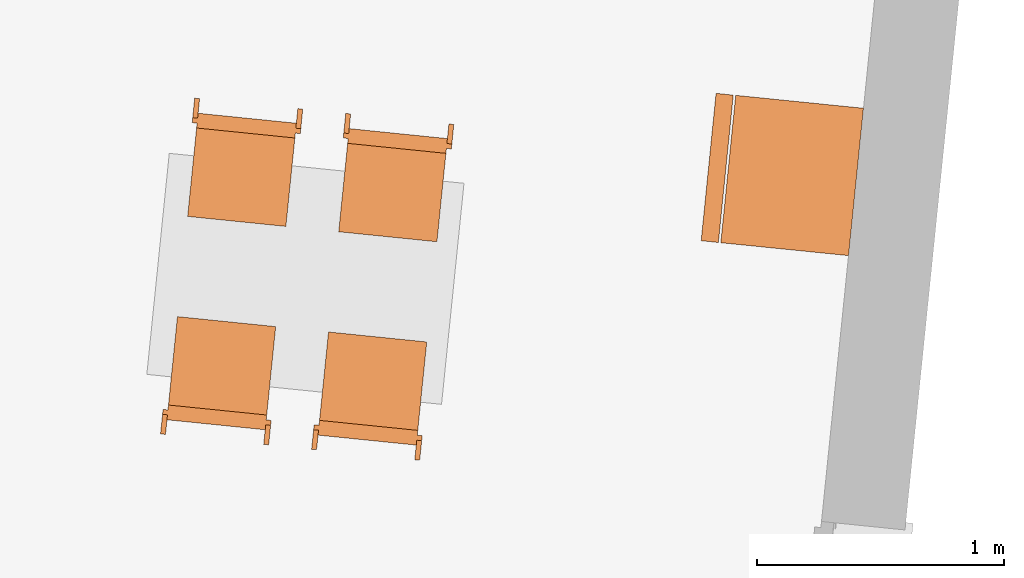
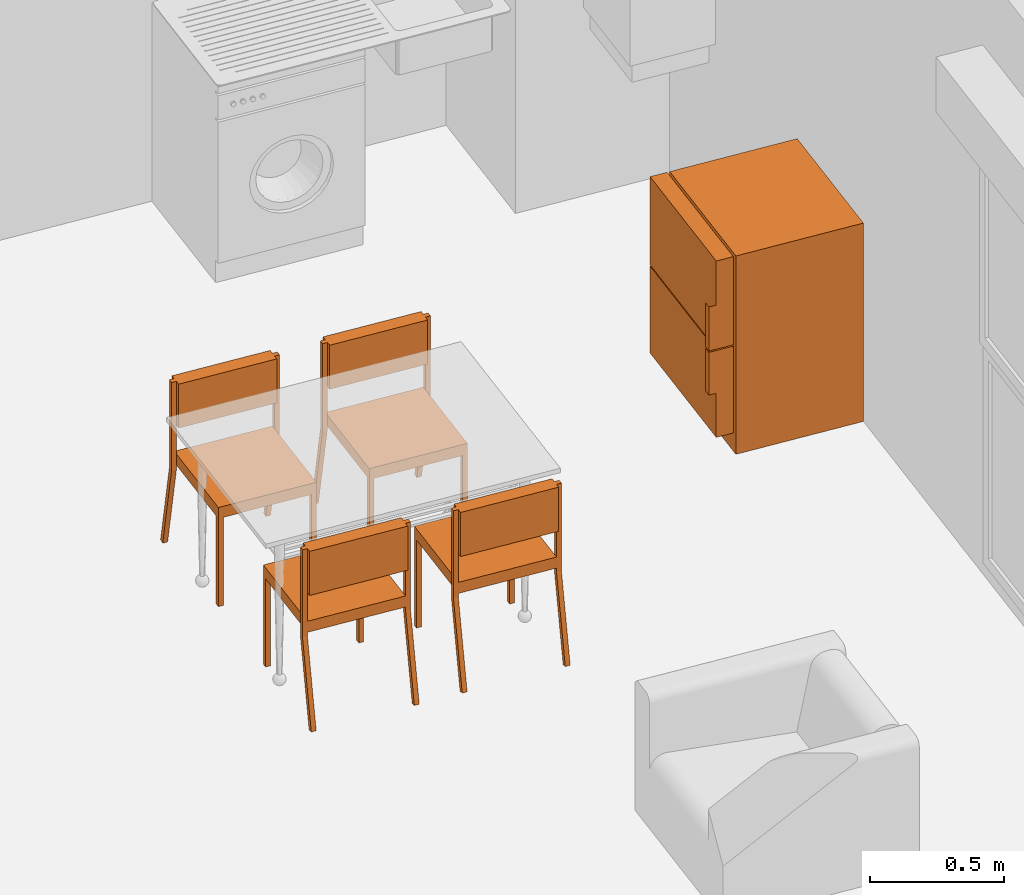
# One storey, part 156 of 164: 5 proxies.
"""IFC2X3 building model written with IfcOpenShell, lengths in millimetres."""

from ifc_helpers import new_model, entity, si_unit, converted_unit, derived_unit, money_unit, direction, frame, origin_with_axes, place, context, subcontext, project, spatial, open_shell, faceted_brep, surface_model, source, transform, mapped, type_object, element, save


model = new_model("IFC2X3")

# Units and contexts
model_context = context("Model", 3, precision=0.01, world=origin_with_axes(), true_north=direction((0.0, 1.0)))
body_context = subcontext(model_context, "Body", "Model", "MODEL_VIEW")
ifc_project = project(units=[si_unit("LENGTHUNIT", "METRE", prefix="MILLI"), si_unit("AREAUNIT", "SQUARE_METRE"), si_unit("VOLUMEUNIT", "CUBIC_METRE"), converted_unit("PLANEANGLEUNIT", "DEGREE", entity("IfcPlaneAngleMeasure", 0.0174532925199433), si_unit("PLANEANGLEUNIT", "RADIAN"), dimensions=[0, 0, 0, 0, 0, 0, 0]), money_unit("USD"), converted_unit("TIMEUNIT", "Year", entity("IfcTimeMeasure", 31557600.0), si_unit("TIMEUNIT", "SECOND"), dimensions=[0, 0, 1, 0, 0, 0, 0]), si_unit("MASSUNIT", "GRAM", prefix="KILO"), si_unit("THERMODYNAMICTEMPERATUREUNIT", "DEGREE_CELSIUS"), si_unit("LUMINOUSINTENSITYUNIT", "LUMEN"), si_unit("ENERGYUNIT", "JOULE", prefix="MEGA"), derived_unit("THERMALCONDUCTANCEUNIT", [(si_unit("POWERUNIT", "WATT"), 1), (si_unit("LENGTHUNIT", "METRE"), -1), (si_unit("THERMODYNAMICTEMPERATUREUNIT", "KELVIN"), -1)]), derived_unit("SPECIFICHEATCAPACITYUNIT", [(si_unit("ENERGYUNIT", "JOULE"), 1), (si_unit("MASSUNIT", "GRAM", prefix="KILO"), -1), (si_unit("THERMODYNAMICTEMPERATUREUNIT", "KELVIN"), -1)]), derived_unit("MASSDENSITYUNIT", [(si_unit("MASSUNIT", "GRAM", prefix="KILO"), 1), (si_unit("VOLUMEUNIT", "CUBIC_METRE"), -1)])], contexts=[model_context])

# Site, building, storey
site_placement = place(None, origin_with_axes())
site = spatial("IfcSite", under=ifc_project, at=site_placement, Name="Site", CompositionType="ELEMENT")
building_placement = place(site_placement, origin_with_axes())
building = spatial("IfcBuilding", under=site, at=building_placement, Name="Bâtiment", CompositionType="ELEMENT")
storey_placement = place(building_placement, frame((0.0, 0.0, 5750.0), z_axis=(0.0, 0.0, 1.0), x_axis=(1.0, 0.0, 0.0)))
storey = spatial("IfcBuildingStorey", under=building, at=storey_placement, Name="Etage1", CompositionType="ELEMENT", Elevation=5750.0)

# Proxies
building_element_proxy_type = type_object("IfcBuildingElementProxyType", PredefinedType="NOTDEFINED")
shared_shape_1 = source(origin_with_axes(), body_context, "Body", "Brep", [
    faceted_brep([(39.99999978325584, 0.0, 0.0), (19.99999989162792, 0.0, 0.0), (19.99999989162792, 19.99999936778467, 0.0), (39.99999978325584, 19.99999936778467, 0.0), (39.99999978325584, 0.0, 400.0), (19.99999989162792, 0.0, 400.0), (19.99999989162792, 19.99999936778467, 400.0), (39.99999978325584, 19.99999936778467, 400.0)], [[[0, 1, 2, 3]], [[1, 0, 4, 5]], [[2, 1, 5, 6]], [[3, 2, 6, 7]], [[0, 3, 7, 4]], [[5, 4, 7, 6]]]),
    faceted_brep([(419.9999977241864, 0.0, 0.0), (399.9999978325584, 0.0, 0.0), (399.9999978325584, 19.99999936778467, 0.0), (419.9999977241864, 19.99999936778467, 0.0), (419.9999977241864, 0.0, 400.0), (399.9999978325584, 0.0, 400.0), (399.9999978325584, 19.99999936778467, 400.0), (419.9999977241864, 19.99999936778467, 400.0)], [[[0, 1, 2, 3]], [[1, 0, 4, 5]], [[2, 1, 5, 6]], [[3, 2, 6, 7]], [[0, 3, 7, 4]], [[5, 4, 7, 6]]]),
    faceted_brep([(399.9999978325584, 0.0, 400.0000000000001), (39.99999978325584, 0.0, 400.0000000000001), (39.99999978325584, 19.99999936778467, 400.0000000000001), (399.9999978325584, 19.99999936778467, 400.0000000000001), (399.9999978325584, 0.0, 420.0000000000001), (39.99999978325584, 0.0, 420.0000000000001), (39.99999978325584, 19.99999936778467, 420.0000000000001), (399.9999978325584, 19.99999936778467, 420.0000000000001)], [[[0, 1, 2, 3]], [[1, 0, 4, 5]], [[2, 1, 5, 6]], [[3, 2, 6, 7]], [[0, 3, 7, 4]], [[5, 4, 7, 6]]]),
    faceted_brep([(39.99999978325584, 19.99999936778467, 400.0000000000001), (19.99999989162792, 19.99999936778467, 400.0000000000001), (19.99999989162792, 379.9999879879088, 400.0000000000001), (39.99999978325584, 379.9999879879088, 400.0000000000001), (39.99999978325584, 19.99999936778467, 420.0000000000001), (19.99999989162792, 19.99999936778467, 420.0000000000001), (19.99999989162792, 379.9999879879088, 420.0000000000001), (39.99999978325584, 379.9999879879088, 420.0000000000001)], [[[0, 1, 2, 3]], [[1, 0, 4, 5]], [[2, 1, 5, 6]], [[3, 2, 6, 7]], [[0, 3, 7, 4]], [[5, 4, 7, 6]]]),
    faceted_brep([(419.9999977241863, 379.9999879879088, 400.0000000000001), (19.99999989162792, 379.9999879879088, 400.0000000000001), (19.99999989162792, 399.9999873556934, 400.0000000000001), (419.9999977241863, 399.9999873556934, 400.0000000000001), (419.9999977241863, 379.9999879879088, 420.0000000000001), (19.99999989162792, 379.9999879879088, 420.0000000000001), (19.99999989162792, 399.9999873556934, 420.0000000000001), (419.9999977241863, 399.9999873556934, 420.0000000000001)], [[[0, 1, 2, 3]], [[1, 0, 4, 5]], [[2, 1, 5, 6]], [[3, 2, 6, 7]], [[0, 3, 7, 4]], [[5, 4, 7, 6]]]),
    faceted_brep([(419.9999977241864, 19.99999936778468, 400.0000000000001), (399.9999978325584, 19.99999936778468, 400.0000000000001), (399.9999978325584, 379.9999879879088, 400.0000000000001), (419.9999977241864, 379.9999879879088, 400.0000000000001), (419.9999977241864, 19.99999936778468, 420.0000000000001), (399.9999978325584, 19.99999936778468, 420.0000000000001), (399.9999978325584, 379.9999879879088, 420.0000000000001), (419.9999977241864, 379.9999879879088, 420.0000000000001)], [[[0, 1, 2, 3]], [[1, 0, 4, 5]], [[2, 1, 5, 6]], [[3, 2, 6, 7]], [[0, 3, 7, 4]], [[5, 4, 7, 6]]]),
    faceted_brep([(419.9999977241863, 0.0, 400.0), (19.99999989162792, 0.0, 400.0), (19.99999989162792, 399.9999873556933, 400.0), (419.9999977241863, 399.9999873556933, 400.0), (419.9999977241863, 0.0, 450.0), (19.99999989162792, 0.0, 450.0), (19.99999989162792, 399.9999873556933, 450.0), (419.9999977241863, 399.9999873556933, 450.0)], [[[0, 1, 2, 3]], [[1, 0, 4, 5]], [[2, 1, 5, 6]], [[3, 2, 6, 7]], [[0, 3, 7, 4]], [[5, 4, 7, 6]]]),
    faceted_brep([(19.99999989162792, 379.9999879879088, 380.0), (0.0, 379.9999879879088, 380.0), (0.0, 399.9999873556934, 380.0), (19.99999989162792, 399.9999873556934, 380.0), (19.99999989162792, 379.9999879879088, 780.0), (0.0, 379.9999879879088, 780.0), (0.0, 399.9999873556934, 780.0), (19.99999989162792, 399.9999873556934, 780.0)], [[[0, 1, 2, 3]], [[1, 0, 4, 5]], [[2, 1, 5, 6]], [[3, 2, 6, 7]], [[0, 3, 7, 4]], [[5, 4, 7, 6]]]),
    faceted_brep([(439.9999976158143, 379.9999879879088, 380.0), (419.9999977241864, 379.9999879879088, 380.0), (419.9999977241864, 399.9999873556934, 380.0), (439.9999976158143, 399.9999873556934, 380.0), (439.9999976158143, 379.9999879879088, 780.0), (419.9999977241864, 379.9999879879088, 780.0), (419.9999977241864, 399.9999873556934, 780.0), (439.9999976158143, 399.9999873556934, 780.0)], [[[0, 1, 2, 3]], [[1, 0, 4, 5]], [[2, 1, 5, 6]], [[3, 2, 6, 7]], [[0, 3, 7, 4]], [[5, 4, 7, 6]]]),
    faceted_brep([(419.9999977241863, 359.999988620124, 580.0000000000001), (19.99999989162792, 359.999988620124, 580.0000000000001), (19.99999989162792, 419.9999867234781, 580.0000000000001), (419.9999977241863, 419.9999867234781, 580.0000000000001), (419.9999977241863, 359.999988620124, 780.0), (19.99999989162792, 359.999988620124, 780.0), (19.99999989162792, 419.9999867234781, 780.0), (419.9999977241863, 419.9999867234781, 780.0)], [[[0, 1, 2, 3]], [[1, 0, 4, 5]], [[2, 1, 5, 6]], [[3, 2, 6, 7]], [[0, 3, 7, 4]], [[5, 4, 7, 6]]]),
    faceted_brep([(19.99999989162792, 459.9999854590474, 0.0), (0.0, 459.9999854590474, 0.0), (0.0, 479.5709559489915, 4.120326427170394), (19.99999989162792, 479.5709559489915, 4.120326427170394), (19.99999989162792, 379.997669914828, 379.999760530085), (0.0, 379.997669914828, 379.999760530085), (0.0, 399.5686404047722, 384.1200869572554), (19.99999989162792, 399.5686404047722, 384.1200869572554)], [[[0, 1, 2, 3]], [[1, 0, 4, 5]], [[2, 1, 5, 6]], [[3, 2, 6, 7]], [[0, 3, 7, 4]], [[5, 4, 7, 6]]]),
    faceted_brep([(439.9999976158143, 459.9999854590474, 0.0), (419.9999977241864, 459.9999854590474, 0.0), (419.9999977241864, 479.5709559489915, 4.120326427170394), (439.9999976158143, 479.5709559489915, 4.120326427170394), (439.9999976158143, 379.997669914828, 379.999760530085), (419.9999977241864, 379.997669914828, 379.999760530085), (419.9999977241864, 399.5686404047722, 384.1200869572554), (439.9999976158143, 399.5686404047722, 384.1200869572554)], [[[0, 1, 2, 3]], [[1, 0, 4, 5]], [[2, 1, 5, 6]], [[3, 2, 6, 7]], [[0, 3, 7, 4]], [[5, 4, 7, 6]]]),
])
for number, where, z_axis, x_axis, name in (
    (1, (2236732.511818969, -616207.8608610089, 0.0), (0.0, 0.0, 1.0), (0.9948759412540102, -0.1011032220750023, 0.0), "Obj.-027"),
    (2, (2236120.538352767, -616145.6697006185, 0.0), (0.0, 0.0, 1.0), (0.9948759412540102, -0.1011032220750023, 0.0), "Obj.-027"),
):
    element("IfcBuildingElementProxy", number, at=place(storey_placement, frame(where, z_axis=z_axis, x_axis=x_axis)), inside=storey, type_object=building_element_proxy_type, Name=name, context=body_context, shape_type="MappedRepresentation", body=[
        mapped(shared_shape_1, transform((0.0, 0.0, 0.0))),
    ])
shared_shape_2 = source(origin_with_axes(), body_context, "Body", "Brep", [
    faceted_brep([(-39.99999978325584, 0.0, 0.0), (-39.99999978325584, 19.99999936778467, 0.0), (-19.99999989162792, 19.99999936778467, 0.0), (-19.99999989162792, 0.0, 0.0), (-39.99999978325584, 0.0, 400.0), (-39.99999978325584, 19.99999936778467, 400.0), (-19.99999989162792, 19.99999936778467, 400.0), (-19.99999989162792, 0.0, 400.0)], [[[0, 1, 2, 3]], [[0, 4, 5, 1]], [[1, 5, 6, 2]], [[2, 6, 7, 3]], [[3, 7, 4, 0]], [[7, 6, 5, 4]]]),
    faceted_brep([(-419.9999977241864, 0.0, 0.0), (-419.9999977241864, 19.99999936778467, 0.0), (-399.9999978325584, 19.99999936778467, 0.0), (-399.9999978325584, 0.0, 0.0), (-419.9999977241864, 0.0, 400.0), (-419.9999977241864, 19.99999936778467, 400.0), (-399.9999978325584, 19.99999936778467, 400.0), (-399.9999978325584, 0.0, 400.0)], [[[0, 1, 2, 3]], [[0, 4, 5, 1]], [[1, 5, 6, 2]], [[2, 6, 7, 3]], [[3, 7, 4, 0]], [[7, 6, 5, 4]]]),
    faceted_brep([(-399.9999978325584, 0.0, 400.0000000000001), (-399.9999978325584, 19.99999936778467, 400.0000000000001), (-39.99999978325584, 19.99999936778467, 400.0000000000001), (-39.99999978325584, 0.0, 400.0000000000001), (-399.9999978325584, 0.0, 420.0000000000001), (-399.9999978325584, 19.99999936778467, 420.0000000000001), (-39.99999978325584, 19.99999936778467, 420.0000000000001), (-39.99999978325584, 0.0, 420.0000000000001)], [[[0, 1, 2, 3]], [[0, 4, 5, 1]], [[1, 5, 6, 2]], [[2, 6, 7, 3]], [[3, 7, 4, 0]], [[7, 6, 5, 4]]]),
    faceted_brep([(-39.99999978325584, 19.99999936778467, 400.0000000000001), (-39.99999978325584, 379.9999879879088, 400.0000000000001), (-19.99999989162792, 379.9999879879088, 400.0000000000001), (-19.99999989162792, 19.99999936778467, 400.0000000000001), (-39.99999978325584, 19.99999936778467, 420.0000000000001), (-39.99999978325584, 379.9999879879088, 420.0000000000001), (-19.99999989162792, 379.9999879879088, 420.0000000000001), (-19.99999989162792, 19.99999936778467, 420.0000000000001)], [[[0, 1, 2, 3]], [[0, 4, 5, 1]], [[1, 5, 6, 2]], [[2, 6, 7, 3]], [[3, 7, 4, 0]], [[7, 6, 5, 4]]]),
    faceted_brep([(-419.9999977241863, 379.9999879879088, 400.0000000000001), (-419.9999977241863, 399.9999873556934, 400.0000000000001), (-19.99999989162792, 399.9999873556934, 400.0000000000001), (-19.99999989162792, 379.9999879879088, 400.0000000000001), (-419.9999977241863, 379.9999879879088, 420.0000000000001), (-419.9999977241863, 399.9999873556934, 420.0000000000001), (-19.99999989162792, 399.9999873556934, 420.0000000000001), (-19.99999989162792, 379.9999879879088, 420.0000000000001)], [[[0, 1, 2, 3]], [[0, 4, 5, 1]], [[1, 5, 6, 2]], [[2, 6, 7, 3]], [[3, 7, 4, 0]], [[7, 6, 5, 4]]]),
    faceted_brep([(-419.9999977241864, 19.99999936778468, 400.0000000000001), (-419.9999977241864, 379.9999879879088, 400.0000000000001), (-399.9999978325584, 379.9999879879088, 400.0000000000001), (-399.9999978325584, 19.99999936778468, 400.0000000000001), (-419.9999977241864, 19.99999936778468, 420.0000000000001), (-419.9999977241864, 379.9999879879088, 420.0000000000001), (-399.9999978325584, 379.9999879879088, 420.0000000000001), (-399.9999978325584, 19.99999936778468, 420.0000000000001)], [[[0, 1, 2, 3]], [[0, 4, 5, 1]], [[1, 5, 6, 2]], [[2, 6, 7, 3]], [[3, 7, 4, 0]], [[7, 6, 5, 4]]]),
    faceted_brep([(-419.9999977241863, 0.0, 400.0), (-419.9999977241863, 399.9999873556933, 400.0), (-19.99999989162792, 399.9999873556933, 400.0), (-19.99999989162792, 0.0, 400.0), (-419.9999977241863, 0.0, 450.0), (-419.9999977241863, 399.9999873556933, 450.0), (-19.99999989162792, 399.9999873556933, 450.0), (-19.99999989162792, 0.0, 450.0)], [[[0, 1, 2, 3]], [[0, 4, 5, 1]], [[1, 5, 6, 2]], [[2, 6, 7, 3]], [[3, 7, 4, 0]], [[7, 6, 5, 4]]]),
    faceted_brep([(-19.99999989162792, 379.9999879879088, 380.0), (-19.99999989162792, 399.9999873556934, 380.0), (0.0, 399.9999873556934, 380.0), (0.0, 379.9999879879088, 380.0), (-19.99999989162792, 379.9999879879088, 780.0), (-19.99999989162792, 399.9999873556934, 780.0), (0.0, 399.9999873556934, 780.0), (0.0, 379.9999879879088, 780.0)], [[[0, 1, 2, 3]], [[0, 4, 5, 1]], [[1, 5, 6, 2]], [[2, 6, 7, 3]], [[3, 7, 4, 0]], [[7, 6, 5, 4]]]),
    faceted_brep([(-439.9999976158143, 379.9999879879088, 380.0), (-439.9999976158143, 399.9999873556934, 380.0), (-419.9999977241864, 399.9999873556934, 380.0), (-419.9999977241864, 379.9999879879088, 380.0), (-439.9999976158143, 379.9999879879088, 780.0), (-439.9999976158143, 399.9999873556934, 780.0), (-419.9999977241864, 399.9999873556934, 780.0), (-419.9999977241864, 379.9999879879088, 780.0)], [[[0, 1, 2, 3]], [[0, 4, 5, 1]], [[1, 5, 6, 2]], [[2, 6, 7, 3]], [[3, 7, 4, 0]], [[7, 6, 5, 4]]]),
    faceted_brep([(-419.9999977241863, 359.999988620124, 580.0000000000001), (-419.9999977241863, 419.9999867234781, 580.0000000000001), (-19.99999989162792, 419.9999867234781, 580.0000000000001), (-19.99999989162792, 359.999988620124, 580.0000000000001), (-419.9999977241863, 359.999988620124, 780.0), (-419.9999977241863, 419.9999867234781, 780.0), (-19.99999989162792, 419.9999867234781, 780.0), (-19.99999989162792, 359.999988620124, 780.0)], [[[0, 1, 2, 3]], [[0, 4, 5, 1]], [[1, 5, 6, 2]], [[2, 6, 7, 3]], [[3, 7, 4, 0]], [[7, 6, 5, 4]]]),
    faceted_brep([(-19.99999989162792, 459.9999854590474, 0.0), (-19.99999989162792, 479.5709559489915, 4.120326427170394), (0.0, 479.5709559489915, 4.120326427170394), (0.0, 459.9999854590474, 0.0), (-19.99999989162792, 379.997669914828, 379.999760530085), (-19.99999989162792, 399.5686404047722, 384.1200869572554), (0.0, 399.5686404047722, 384.1200869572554), (0.0, 379.997669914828, 379.999760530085)], [[[0, 1, 2, 3]], [[0, 4, 5, 1]], [[1, 5, 6, 2]], [[2, 6, 7, 3]], [[3, 7, 4, 0]], [[7, 6, 5, 4]]]),
    faceted_brep([(-439.9999976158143, 459.9999854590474, 0.0), (-439.9999976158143, 479.5709559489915, 4.120326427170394), (-419.9999977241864, 479.5709559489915, 4.120326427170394), (-419.9999977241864, 459.9999854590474, 0.0), (-439.9999976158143, 379.997669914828, 379.999760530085), (-439.9999976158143, 399.5686404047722, 384.1200869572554), (-419.9999977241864, 399.5686404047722, 384.1200869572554), (-419.9999977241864, 379.997669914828, 379.999760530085)], [[[0, 1, 2, 3]], [[0, 4, 5, 1]], [[1, 5, 6, 2]], [[2, 6, 7, 3]], [[3, 7, 4, 0]], [[7, 6, 5, 4]]]),
])
for number, where, z_axis, x_axis, name in (
    (3, (2236691.25590269, -616613.8273344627, 0.0), (0.0, 0.0, 1.0), (-0.9948759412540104, 0.1011032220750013, 0.0), "Obj.-027"),
    (4, (2236079.282436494, -616551.6361740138, 0.0), (0.0, 0.0, 1.0), (-0.9948759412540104, 0.1011032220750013, 0.0), "Obj.-027"),
):
    element("IfcBuildingElementProxy", number, at=place(storey_placement, frame(where, z_axis=z_axis, x_axis=x_axis)), inside=storey, type_object=building_element_proxy_type, Name=name, context=body_context, shape_type="MappedRepresentation", body=[
        mapped(shared_shape_2, transform((0.0, 0.0, 0.0))),
    ])
shared_shape_3 = source(origin_with_axes(), body_context, "Body", "SurfaceModel", [
    faceted_brep([(0.0, 80.0, 100.0), (600.0, 80.0, 100.0), (600.0, 80.0, 900.0), (0.0, 80.0, 900.0), (0.0, 600.0, 100.0), (600.0, 600.0, 100.0), (600.0, 600.0, 900.0), (0.0, 600.0, 900.0)], [[[0, 1, 2, 3]], [[0, 4, 5, 1]], [[1, 5, 6, 2]], [[3, 2, 6, 7]], [[4, 0, 3, 7]], [[5, 4, 7, 6]]]),
    faceted_brep([(0.0, 80.0, 0.0), (600.0, 80.0, 0.0), (600.0, 80.0, 100.0), (0.0, 80.0, 100.0), (0.0, 600.0, 0.0), (600.0, 600.0, 0.0), (600.0, 600.0, 100.0), (0.0, 600.0, 100.0)], [[[0, 1, 2, 3]], [[0, 4, 5, 1]], [[1, 5, 6, 2]], [[3, 2, 6, 7]], [[4, 0, 3, 7]], [[5, 4, 7, 6]]]),
    faceted_brep([(0.0, 70.0, 100.0), (600.0, 70.0, 100.0), (600.0, 0.0, 100.0), (0.0, 0.0, 100.0), (0.0, 70.00000000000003, 494.0), (600.0, 70.00000000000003, 494.0), (600.0, 0.0, 494.0), (0.0, 0.0, 494.0)], [[[0, 1, 2, 3]], [[0, 4, 5, 1]], [[1, 5, 6, 2]], [[3, 2, 6, 7]], [[4, 0, 3, 7]], [[5, 4, 7, 6]]]),
    faceted_brep([(0.0, 70.0, 500.0), (600.0, 70.0, 500.0), (600.0, 0.0, 500.0), (0.0, 0.0, 500.0), (0.0, 70.00000000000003, 900.0), (600.0, 70.00000000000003, 900.0), (600.0, 0.0, 900.0), (0.0, 0.0, 900.0)], [[[0, 1, 2, 3]], [[0, 4, 5, 1]], [[1, 5, 6, 2]], [[3, 2, 6, 7]], [[4, 0, 3, 7]], [[5, 4, 7, 6]]]),
    surface_model("IfcShellBasedSurfaceModel", [(600.0, -30.0, 300.0000000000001), (600.0, -30.0, 494.0000000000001), (600.0, 0.0, 494.0000000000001), (600.0, 0.0, 300.0000000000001)], [open_shell([[[0, 1, 2, 3]]])]),
    surface_model("IfcShellBasedSurfaceModel", [(600.0, -30.0, 300.0000000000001), (600.0, -30.0, 494.0000000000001), (570.0, -30.0, 494.0000000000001), (570.0, -30.0, 300.0000000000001)], [open_shell([[[0, 1, 2, 3]]])]),
    surface_model("IfcShellBasedSurfaceModel", [(600.0, -30.0, 500.0), (600.0, -30.0, 700.0), (600.0, 0.0, 700.0), (600.0, 0.0, 500.0)], [open_shell([[[0, 1, 2, 3]]])]),
    surface_model("IfcShellBasedSurfaceModel", [(600.0, -30.0, 500.0), (600.0, -30.0, 700.0), (570.0, -30.0, 700.0), (570.0, -30.0, 500.0)], [open_shell([[[0, 1, 2, 3]]])]),
])
proxy_placement = place(storey_placement, frame((2238281.192170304, -615649.224791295, 0.0), z_axis=(0.0, 0.0, 1.0), x_axis=(-0.1005433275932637, -0.9949326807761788, 0.0)))
element("IfcBuildingElementProxy", 5, at=proxy_placement, inside=storey, type_object=building_element_proxy_type, Name="Obj.-019", context=body_context, shape_type="MappedRepresentation", body=[
    mapped(shared_shape_3, transform((0.0, 0.0, 0.0))),
])

save(model, "model.ifc")
